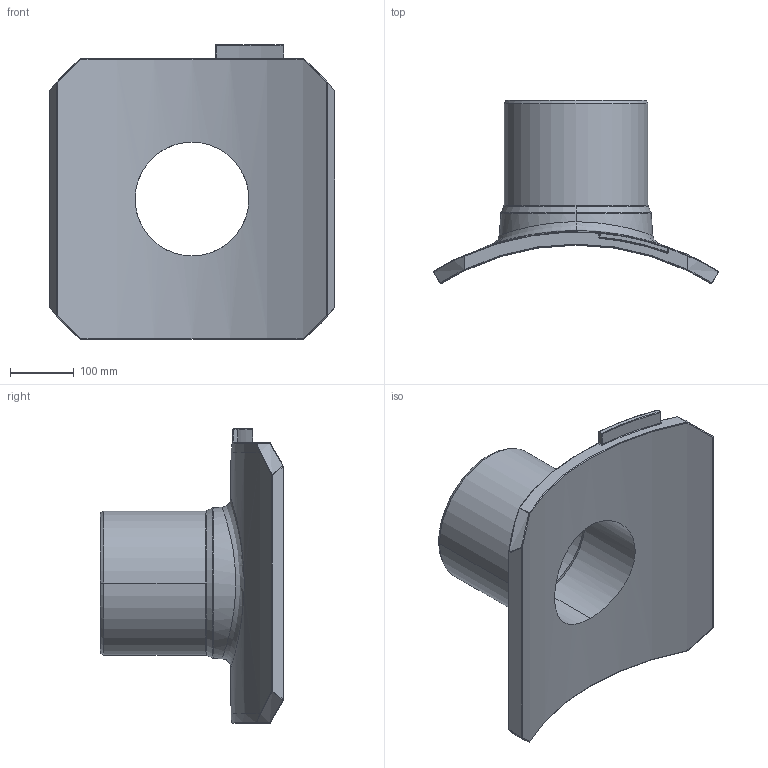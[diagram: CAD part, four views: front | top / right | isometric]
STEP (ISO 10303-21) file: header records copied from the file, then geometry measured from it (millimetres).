
FILE_DESCRIPTION((''),'2;1');
FILE_NAME('SA-UNI_D800_225_01','2024-07-01T11:32:26',('mikulicp'),(''),'CREO PARAMETRIC BY PTC INC, 2022124','CREO PARAMETRIC BY PTC INC, 2022124','');
FILE_SCHEMA(('AP242_MANAGED_MODEL_BASED_3D_ENGINEERING_MIM_LF { 1 0 10303 442 1 1 4 }'));
Length unit declared in the file: millimetre
Products named in the file (2): SA-UNI_D800_225_01; PE100
Bounding box: 445.77 x 286.19 x 460 mm (x, y, z)
Volume: 6907948.9 mm3; surface area: 656410.1 mm2
Topology: 1 solids, 1 shells, 235 faces, 569 edges, 352 vertices
Faces by surface type: bspline 74, plane 66, cylinder 49, sphere 20, torus 14, cone 12
Entity records: 14799 total; most frequent: CARTESIAN_POINT 6824, ORIENTED_EDGE 1138, DIRECTION 862, PRESENTATION_STYLE_ASSIGNMENT 581, STYLED_ITEM 570, CURVE_STYLE 569, EDGE_CURVE 569, VERTEX_POINT 352
